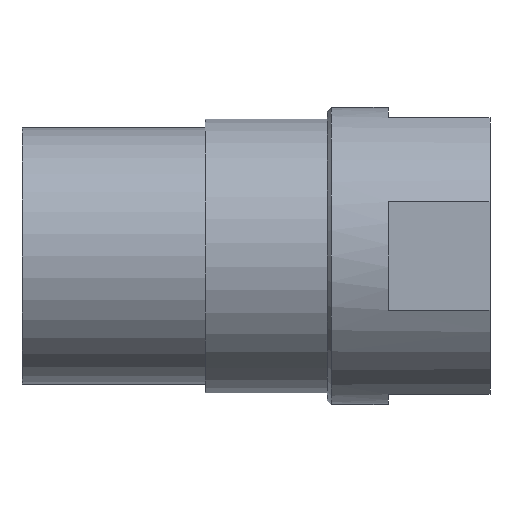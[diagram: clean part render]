
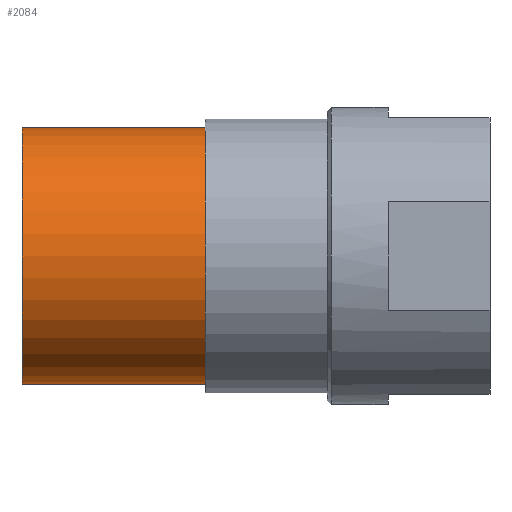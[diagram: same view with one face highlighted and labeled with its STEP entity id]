
A CAD part, front view. The second image highlights one B-rep face of the part: STEP entity #2084.
In plain terms, the highlighted cylindrical face has radius 31.5 mm (diameter 63 mm), a partial arc.
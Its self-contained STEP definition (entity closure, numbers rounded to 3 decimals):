
#327 = VERTEX_POINT ( 'NONE', #2154 ) ;
#328 = VERTEX_POINT ( 'NONE', #2155 ) ;
#329 = VERTEX_POINT ( 'NONE', #2156 ) ;
#456 = VERTEX_POINT ( 'NONE', #2170 ) ;
#560 = ORIENTED_EDGE ( 'NONE', *, *, #1096, .F. ) ;
#561 = ORIENTED_EDGE ( 'NONE', *, *, #1099, .F. ) ;
#562 = ORIENTED_EDGE ( 'NONE', *, *, #1098, .T. ) ;
#563 = ORIENTED_EDGE ( 'NONE', *, *, #1101, .T. ) ;
#640 = DIRECTION ( 'NONE',  ( -1., 0., 0. ) ) ;
#651 = CARTESIAN_POINT ( 'NONE',  ( -10., 0., 0. ) ) ;
#659 = DIRECTION ( 'NONE',  ( 0., 0., 1. ) ) ;
#952 = LINE ( 'NONE', #2324, #956 ) ;
#955 = CIRCLE ( 'NONE', #1837, 31.5 ) ;
#956 = VECTOR ( 'NONE', #2322, 1000. ) ;
#957 = LINE ( 'NONE', #2328, #959 ) ;
#959 = VECTOR ( 'NONE', #2323, 1000. ) ;
#961 = CIRCLE ( 'NONE', #1839, 31.5 ) ;
#1096 = EDGE_CURVE ( 'NONE', #456, #328, #952, .T. ) ;
#1098 = EDGE_CURVE ( 'NONE', #327, #329, #957, .T. ) ;
#1099 = EDGE_CURVE ( 'NONE', #327, #456, #955, .T. ) ;
#1101 = EDGE_CURVE ( 'NONE', #329, #328, #961, .T. ) ;
#1174 = AXIS2_PLACEMENT_3D ( 'NONE', #651, #640, #659 ) ;
#1655 = FACE_OUTER_BOUND ( 'NONE', #2059, .T. ) ;
#1663 = CYLINDRICAL_SURFACE ( 'NONE', #1174, 31.5 ) ;
#1837 = AXIS2_PLACEMENT_3D ( 'NONE', #2332, #2333, #2334 ) ;
#1839 = AXIS2_PLACEMENT_3D ( 'NONE', #2338, #2339, #2340 ) ;
#2059 = EDGE_LOOP ( 'NONE', ( #560, #561, #562, #563 ) ) ;
#2084 = ADVANCED_FACE ( 'NONE', ( #1655 ), #1663, .T. ) ;
#2154 = CARTESIAN_POINT ( 'NONE',  ( -10., 0., 31.5 ) ) ;
#2155 = CARTESIAN_POINT ( 'NONE',  ( -85., 0., -31.5 ) ) ;
#2156 = CARTESIAN_POINT ( 'NONE',  ( -85., 0., 31.5 ) ) ;
#2170 = CARTESIAN_POINT ( 'NONE',  ( -10., 0., -31.5 ) ) ;
#2322 = DIRECTION ( 'NONE',  ( -1., 0., 0. ) ) ;
#2323 = DIRECTION ( 'NONE',  ( -1., 0., 0. ) ) ;
#2324 = CARTESIAN_POINT ( 'NONE',  ( -10., 0., -31.5 ) ) ;
#2328 = CARTESIAN_POINT ( 'NONE',  ( -10., 0., 31.5 ) ) ;
#2332 = CARTESIAN_POINT ( 'NONE',  ( -10., 0., 0. ) ) ;
#2333 = DIRECTION ( 'NONE',  ( 1., 0., 0. ) ) ;
#2334 = DIRECTION ( 'NONE',  ( 0., 0., -1. ) ) ;
#2338 = CARTESIAN_POINT ( 'NONE',  ( -85., 0., 0. ) ) ;
#2339 = DIRECTION ( 'NONE',  ( 1., 0., 0. ) ) ;
#2340 = DIRECTION ( 'NONE',  ( 0., 0., -1. ) ) ;
